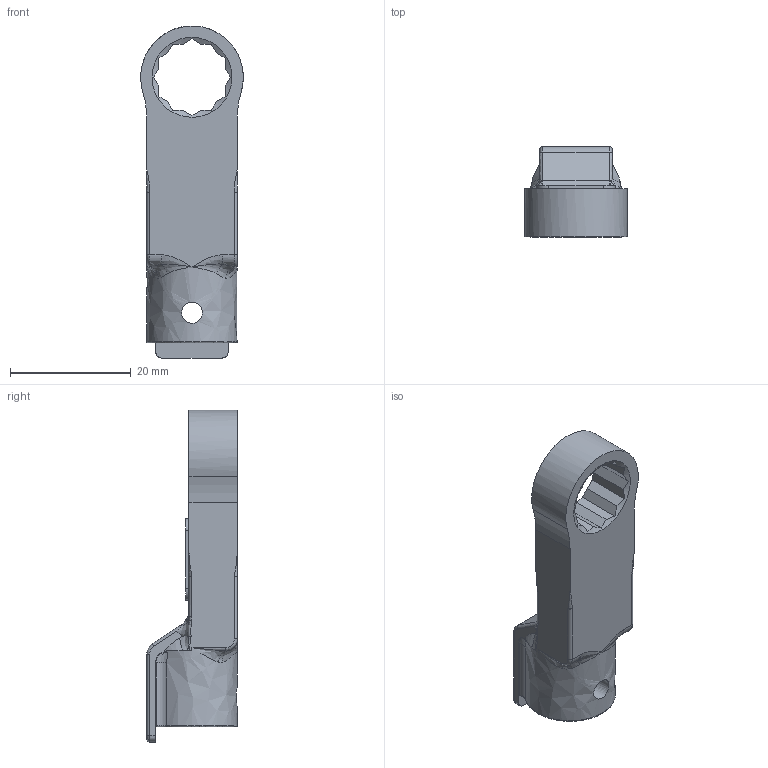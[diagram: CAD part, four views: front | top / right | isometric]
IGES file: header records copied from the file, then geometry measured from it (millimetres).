
Global section: file name: RH10DX11; native system: Autodesk Inventor 2016; preprocessor: unknown; author: Q600; date: 20151110.155507; units: millimetre
Bounding box: 16.99 x 15 x 55 mm (x, y, z)
Volume: 5471.4 mm3; surface area: 3348.7 mm2
Topology: 1 solids, 1 shells, 126 faces, 347 edges, 213 vertices
Faces by surface type: bspline 126
